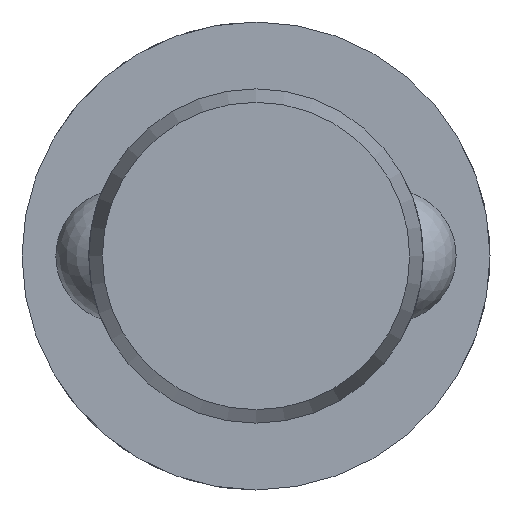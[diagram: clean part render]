
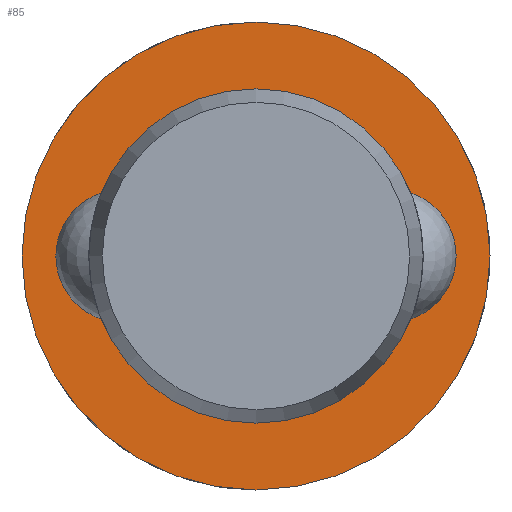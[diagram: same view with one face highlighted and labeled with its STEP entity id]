
A CAD part, left-side view. The second image highlights one B-rep face of the part: STEP entity #85.
In plain terms, the highlighted planar face has unit normal (-1, 0, 0).
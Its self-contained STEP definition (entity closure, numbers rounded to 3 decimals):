
#85 = ADVANCED_FACE( '', ( #130, #131 ), #132, .F. );
#130 = FACE_OUTER_BOUND( '', #200, .T. );
#131 = FACE_BOUND( '', #201, .T. );
#132 = PLANE( '', #202 );
#200 = EDGE_LOOP( '', ( #315 ) );
#201 = EDGE_LOOP( '', ( #316 ) );
#202 = AXIS2_PLACEMENT_3D( '', #317, #318, #319 );
#315 = ORIENTED_EDGE( '', *, *, #458, .F. );
#316 = ORIENTED_EDGE( '', *, *, #455, .T. );
#317 = CARTESIAN_POINT( '', ( 54.6, 5., 0. ) );
#318 = DIRECTION( '', ( 1., 0., 0. ) );
#319 = DIRECTION( '', ( 0., 0., -1. ) );
#455 = EDGE_CURVE( '', #528, #528, #529, .T. );
#458 = EDGE_CURVE( '', #534, #534, #535, .T. );
#528 = VERTEX_POINT( '', #732 );
#529 = CIRCLE( '', #733, 5. );
#534 = VERTEX_POINT( '', #844 );
#535 = CIRCLE( '', #845, 7. );
#732 = CARTESIAN_POINT( '', ( 54.6, 0., -5. ) );
#733 = AXIS2_PLACEMENT_3D( '', #922, #923, #924 );
#844 = CARTESIAN_POINT( '', ( 54.6, 0., -7. ) );
#845 = AXIS2_PLACEMENT_3D( '', #925, #926, #927 );
#922 = CARTESIAN_POINT( '', ( 54.6, 0., 0. ) );
#923 = DIRECTION( '', ( 1., 0., 0. ) );
#924 = DIRECTION( '', ( 0., 0., -1. ) );
#925 = CARTESIAN_POINT( '', ( 54.6, 0., 0. ) );
#926 = DIRECTION( '', ( 1., 0., 0. ) );
#927 = DIRECTION( '', ( 0., 0., -1. ) );
